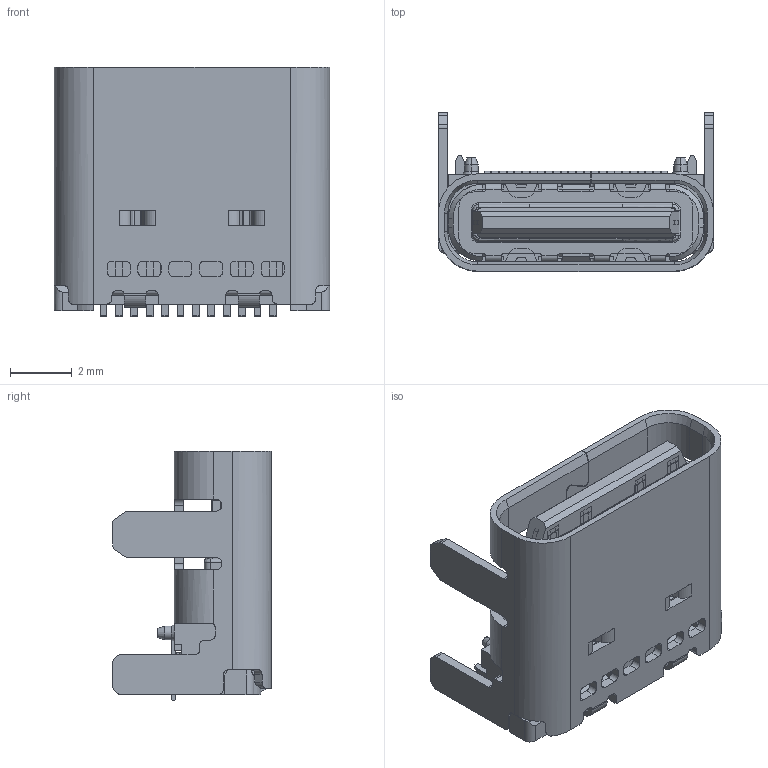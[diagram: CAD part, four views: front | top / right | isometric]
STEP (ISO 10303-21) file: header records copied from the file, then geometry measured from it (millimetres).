
FILE_DESCRIPTION (( 'STEP AP203' ), '1' );
FILE_NAME ('24P双排双贴板上成品长脚.STEP', '2021-05-13T01:30:33', ( '' ), ( '' ), 'SwSTEP 2.0', 'SolidWorks 2016', '' );
FILE_SCHEMA (( 'CONFIG_CONTROL_DESIGN' ));
Length unit declared in the file: millimetre
Products named in the file (1): 24P双排双贴板上成品长脚
Bounding box: 8.94 x 5.16 x 8.1 mm (x, y, z)
Volume: 155.2 mm3; surface area: 1090.9 mm2
Topology: 38 solids, 46 shells, 2932 faces, 8391 edges, 5532 vertices
Faces by surface type: plane 2179, cylinder 695, cone 34, torus 19, bspline 5
Entity records: 95795 total; most frequent: CARTESIAN_POINT 17977, ORIENTED_EDGE 16774, DIRECTION 15424, EDGE_CURVE 8387, LINE 6796, VECTOR 6796, VERTEX_POINT 5530, AXIS2_PLACEMENT_3D 4314
